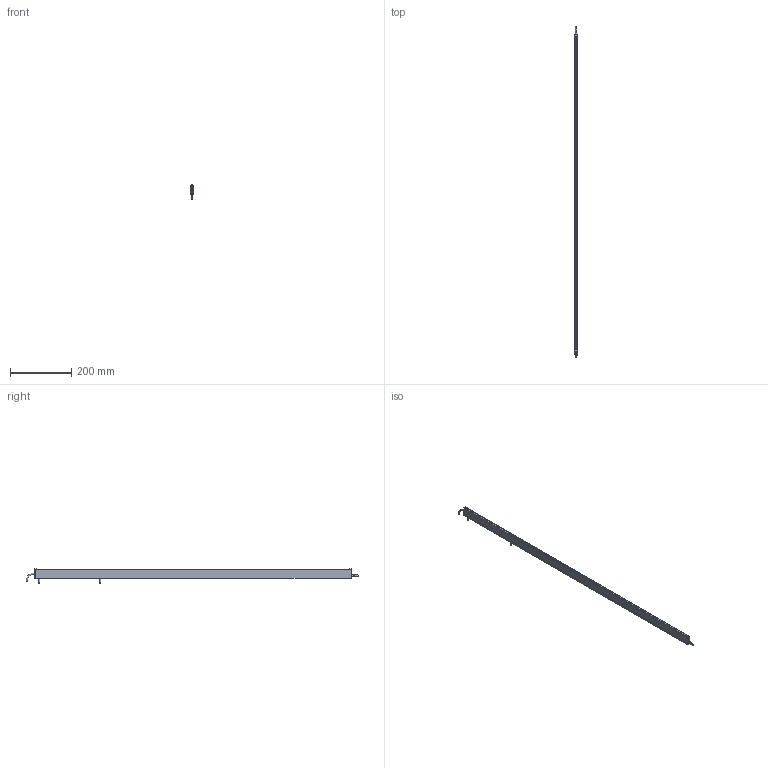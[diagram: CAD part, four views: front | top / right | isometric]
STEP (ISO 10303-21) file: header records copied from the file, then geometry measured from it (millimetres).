
FILE_DESCRIPTION (( 'STEP AP214' ), '1' );
FILE_NAME ('ILG-B-K1-1040mm.STEP', '2017-07-10T11:59:50', ( '' ), ( '' ), 'SwSTEP 2.0', 'SolidWorks 2016', '' );
FILE_SCHEMA (( 'AUTOMOTIVE_DESIGN' ));
Length unit declared in the file: millimetre
Products named in the file (1): ILG-B-K1-1040mm
Bounding box: 9 x 1088.25 x 46.21 mm (x, y, z)
Volume: 118519.1 mm3; surface area: 173893.2 mm2
Topology: 11 solids, 11 shells, 453 faces, 1150 edges, 724 vertices
Faces by surface type: plane 216, cylinder 152, cone 73, torus 12
Entity records: 18769 total; most frequent: CARTESIAN_POINT 2540, DIRECTION 2424, ORIENTED_EDGE 2284, EDGE_CURVE 1142, AXIS2_PLACEMENT_3D 896, VERTEX_POINT 724, VECTOR 632, LINE 632
